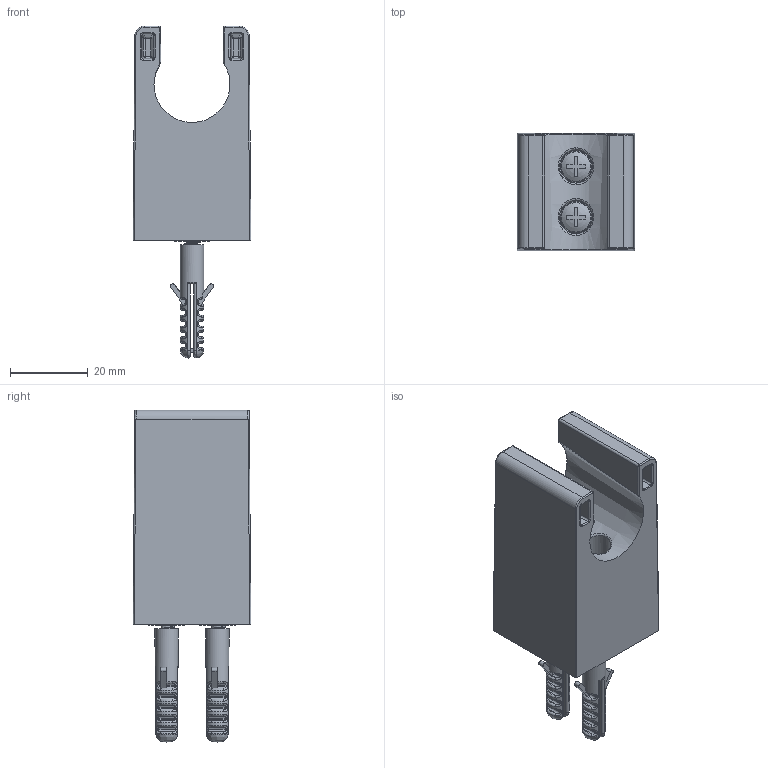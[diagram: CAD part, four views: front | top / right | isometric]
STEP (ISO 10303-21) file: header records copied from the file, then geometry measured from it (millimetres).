
FILE_DESCRIPTION(/* description */ (''),/* implementation_level */ '2;1');
FILE_NAME(/* name */ 'c:\worker\convert-fusion-r09\tmp\job-1\11\output\files\af9a8558-3308-4fe4-83a9-b47edbce6cf8\9b6eb3fe-6ce1-4b7b-8558-8015570a8176.zip.stp',/* time_stamp */ '2019-12-14T15:51:38+00:00',/* author */ (''),/* organization */ (''),/* preprocessor_version */ 'ST-DEVELOPER v18',/* originating_system */ 'Autodesk Translation Framework v8.12.0.6',/* authorisation */ '');
FILE_SCHEMA (('AUTOMOTIVE_DESIGN { 1 0 10303 214 3 1 1 }'));
Products named in the file (1): !2070
Bounding box: 30.26 x 30.26 x 85.2 mm (x, y, z)
Volume: 22842.3 mm3; surface area: 18274.5 mm2
Topology: 5 solids, 5 shells, 632 faces, 1549 edges, 940 vertices
Faces by surface type: cylinder 196, plane 178, bspline 177, torus 56, cone 13, sphere 12
Full cylindrical faces by diameter (mm): 3.6 x2, 4.2 x20, 4.5 x2, 6 x2, 8 x2, 8.5 x2
Entity records: 47430 total; most frequent: CARTESIAN_POINT 33664, ORIENTED_EDGE 3094, DIRECTION 2590, EDGE_CURVE 1547, AXIS2_PLACEMENT_3D 1026, VERTEX_POINT 940, EDGE_LOOP 659, FACE_OUTER_BOUND 632
